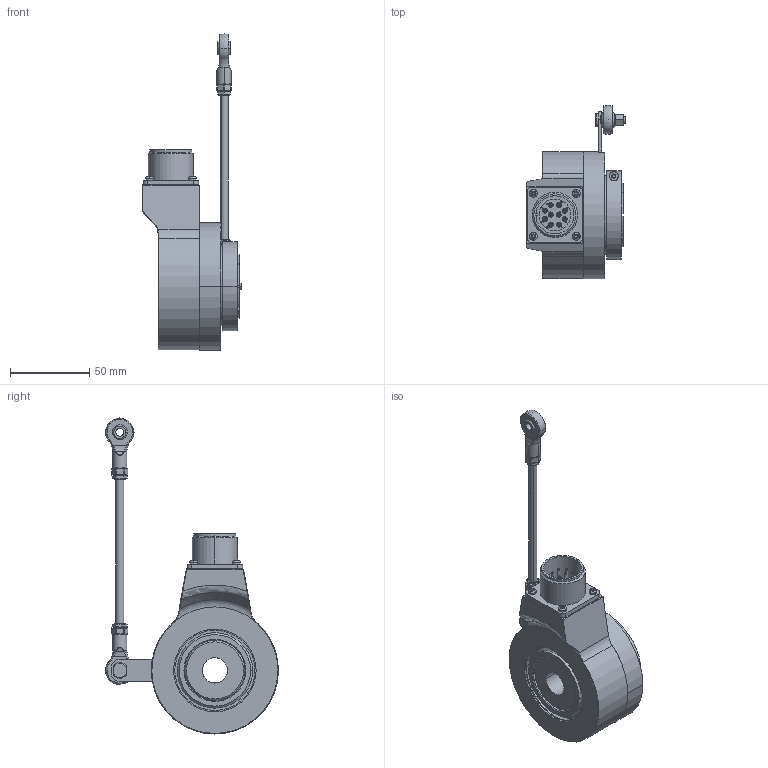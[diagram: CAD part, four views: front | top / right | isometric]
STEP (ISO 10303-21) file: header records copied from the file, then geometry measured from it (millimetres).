
FILE_DESCRIPTION (( 'STEP AP203' ), '1' );
FILE_NAME ('K80I.OXX.XXXXX.XH2784A.6XRCE.step', '2025-12-09T12:58:11', ( '' ), ( '' ), 'SwSTEP 2.0', 'SolidWorks 2021', '' );
FILE_SCHEMA (( 'CONFIG_CONTROL_DESIGN' ));
Length unit declared in the file: millimetre
Products named in the file (1): K80I.OXX.XXXXX.XH2784A.6XRCE
Bounding box: 62.6 x 108.97 x 199.07 mm (x, y, z)
Volume: 259099.7 mm3; surface area: 85122.8 mm2
Topology: 15 solids, 15 shells, 949 faces, 2395 edges, 1511 vertices
Faces by surface type: plane 372, cylinder 299, bspline 107, cone 93, torus 64, sphere 14
Entity records: 34182 total; most frequent: CARTESIAN_POINT 11757, ORIENTED_EDGE 4714, DIRECTION 4619, EDGE_CURVE 2357, AXIS2_PLACEMENT_3D 1771, VERTEX_POINT 1507, VECTOR 1077, LINE 1077
